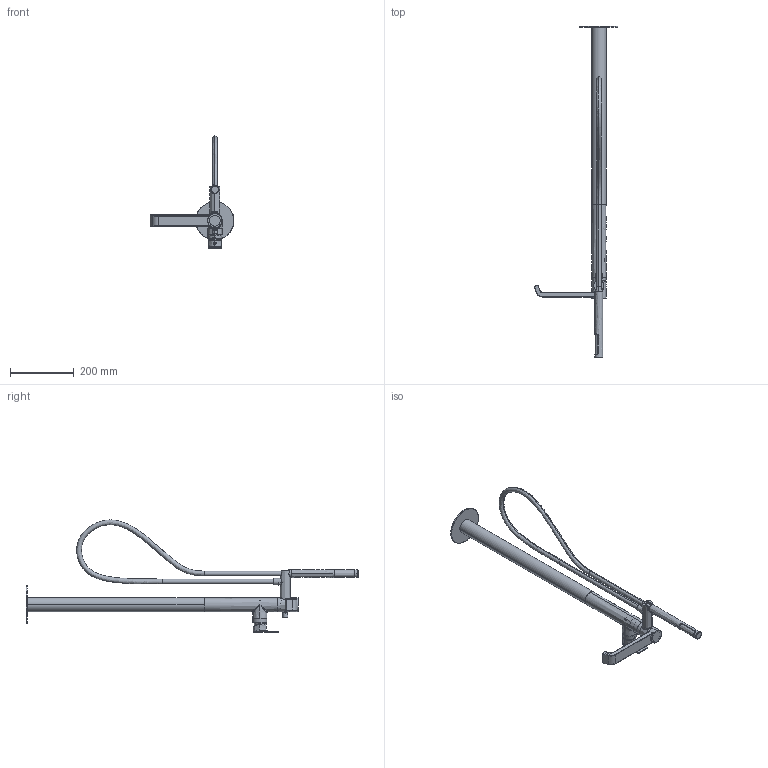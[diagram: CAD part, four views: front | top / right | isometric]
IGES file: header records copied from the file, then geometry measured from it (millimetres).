
Start section:  PTC IGES file: 83596.igs
Global section: file name: 83596.igs; native system: Creo Parametric by PTC Inc.; preprocessor: 2018100; author: carloff; organization: Unknown; date: 20200914.095117; units: millimetre
Bounding box: 264 x 1043.7 x 352.25 mm (x, y, z)
Surface area: 404532.3 mm2 (no closed solid volume)
Topology: 0 solids, 0 shells, 573 faces, 2674 edges, 2663 vertices
Faces by surface type: revolution 350, bspline 223
